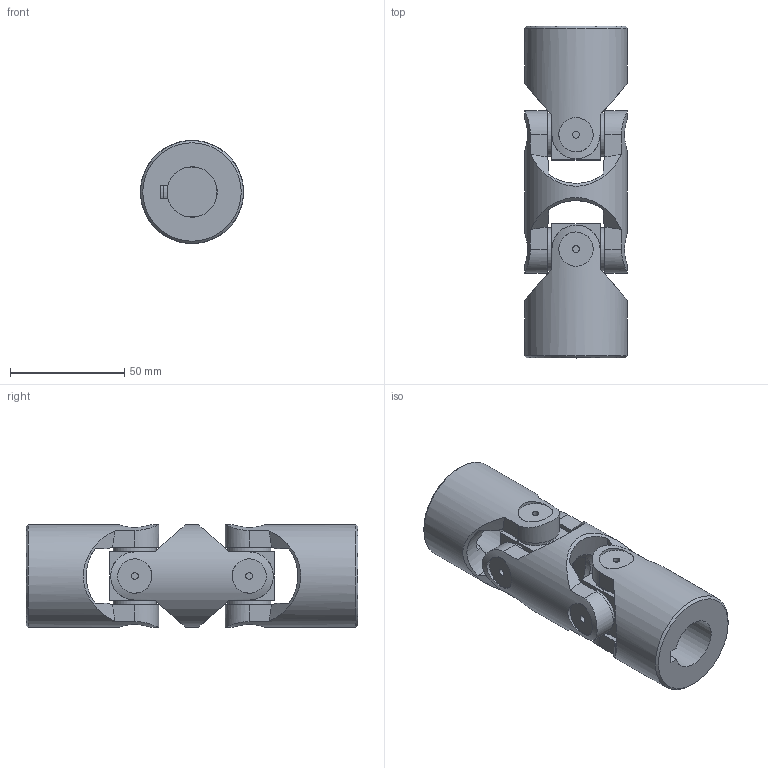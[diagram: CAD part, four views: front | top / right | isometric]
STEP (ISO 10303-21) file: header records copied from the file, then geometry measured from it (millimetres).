
FILE_DESCRIPTION(/* description */ (''),/* implementation_level */ '2;1');
FILE_NAME(/* name */ '\\SRV2016\Societa\Stefano\Disegni 3D\00Catalogo 3D\02Doppi GD-GBD\SG0D222C.stp',/* time_stamp */ '2021-11-23T15:12:16+01:00',/* author */ ('acquisti'),/* organization */ (''),/* preprocessor_version */ 'ST-DEVELOPER v15.6',/* originating_system */ 'Autodesk Inventor 2015',/* authorisation */ '');
FILE_SCHEMA (('AUTOMOTIVE_DESIGN { 1 0 10303 214 3 1 1 }'));
Length unit declared in the file: millimetre
Products named in the file (4): 4G MOD; 4GA SFE; 4G MOC; Ø45_4GD-00_SG0D2200
Assembly tree (5 placements, depth 2):
  Ø45_4GD-00_SG0D2200
    4G MOD
    4GA SFE  x2
    4G MOC  x2
Bounding box: 45 x 145 x 45 mm (x, y, z)
Volume: 146903.2 mm3; surface area: 41019.6 mm2
Topology: 5 solids, 5 shells, 143 faces, 351 edges, 238 vertices
Faces by surface type: plane 76, cylinder 41, cone 22, torus 4
Full cylindrical faces by diameter (mm): 3 x8, 15 x8, 19 x8, 23 x2, 45 x3
Entity records: 3400 total; most frequent: CARTESIAN_POINT 1204, ORIENTED_EDGE 428, DIRECTION 413, EDGE_CURVE 214, AXIS2_PLACEMENT_3D 178, VERTEX_POINT 162, EDGE_LOOP 140, FACE_OUTER_BOUND 97
